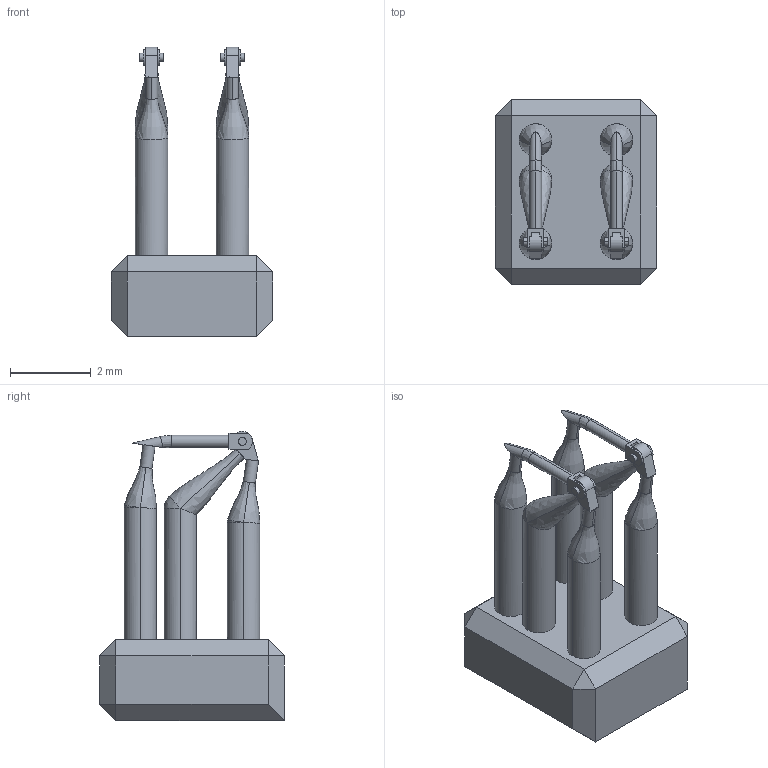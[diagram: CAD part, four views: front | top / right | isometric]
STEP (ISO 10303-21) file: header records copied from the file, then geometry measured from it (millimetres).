
FILE_DESCRIPTION(/* description */ (''),/* implementation_level */ '2;1');
FILE_NAME(/* name */ 'F6F-XA~4',/* time_stamp */ '2021-04-27T22:12:40+02:00',/* author */ (''),/* organization */ (''),/* preprocessor_version */ 'ST-DEVELOPER v16.5',/* originating_system */ '',/* authorisation */ '');
FILE_SCHEMA (('CONFIG_CONTROL_DESIGN'));
Length unit declared in the file: millimetre
Products named in the file (1): Document
Bounding box: 4 x 4.57 x 7.15 mm (x, y, z)
Volume: 46 mm3; surface area: 129.1 mm2
Topology: 1 solids, 1 shells, 139 faces, 339 edges, 192 vertices
Faces by surface type: plane 67, cylinder 40, bspline 32
Entity records: 4253 total; most frequent: CARTESIAN_POINT 2137, ORIENTED_EDGE 650, EDGE_CURVE 325, VERTEX_POINT 192, EDGE_LOOP 151, ADVANCED_FACE 139, FACE_OUTER_BOUND 139, B_SPLINE_CURVE_WITH_KNOTS 113
